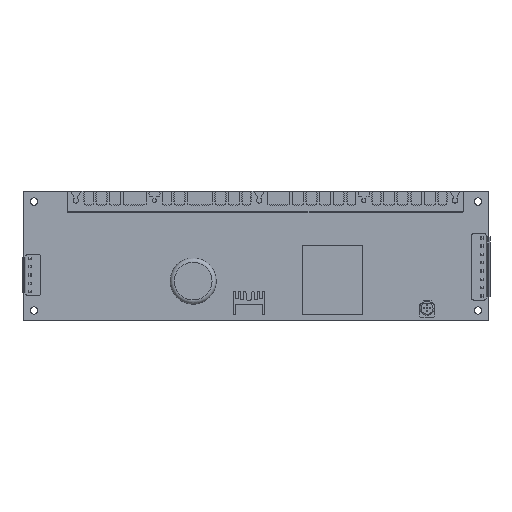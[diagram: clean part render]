
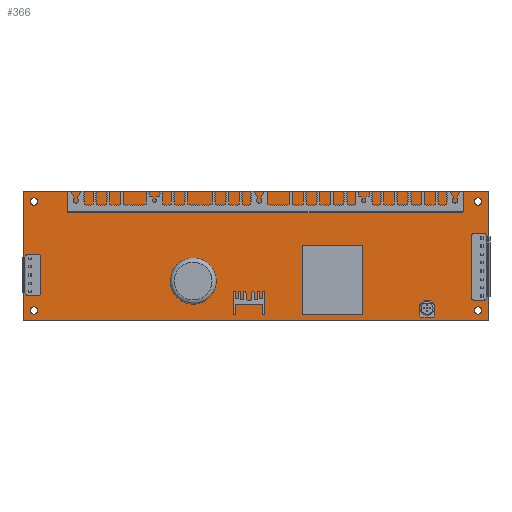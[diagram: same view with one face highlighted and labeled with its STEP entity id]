
A CAD part, top view. The second image highlights one B-rep face of the part: STEP entity #366.
In plain terms, the highlighted planar face has unit normal (0, 0, 1).
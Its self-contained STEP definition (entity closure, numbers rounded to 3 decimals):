
#112=CARTESIAN_POINT('',(197.446,-0.769,1.6));
#113=VERTEX_POINT('',#112);
#114=CARTESIAN_POINT('',(195.696,-0.769,1.6));
#115=DIRECTION('',(0.0,0.0,-1.0));
#116=DIRECTION('',(-1.0,0.0,0.0));
#117=AXIS2_PLACEMENT_3D('',#114,#115,#116);
#118=CIRCLE('',#117,1.75);
#119=EDGE_CURVE('',#113,#113,#118,.T.);
#140=CARTESIAN_POINT('',(197.446,51.231,1.6));
#141=VERTEX_POINT('',#140);
#142=CARTESIAN_POINT('',(195.696,51.231,1.6));
#143=DIRECTION('',(0.0,0.0,-1.0));
#144=DIRECTION('',(-1.0,0.0,0.0));
#145=AXIS2_PLACEMENT_3D('',#142,#143,#144);
#146=CIRCLE('',#145,1.75);
#147=EDGE_CURVE('',#141,#141,#146,.T.);
#168=CARTESIAN_POINT('',(-14.554,-0.769,1.6));
#169=VERTEX_POINT('',#168);
#170=CARTESIAN_POINT('',(-16.304,-0.769,1.6));
#171=DIRECTION('',(0.0,0.0,-1.0));
#172=DIRECTION('',(-1.0,0.0,0.0));
#173=AXIS2_PLACEMENT_3D('',#170,#171,#172);
#174=CIRCLE('',#173,1.75);
#175=EDGE_CURVE('',#169,#169,#174,.T.);
#196=CARTESIAN_POINT('',(-14.554,51.231,1.6));
#197=VERTEX_POINT('',#196);
#198=CARTESIAN_POINT('',(-16.304,51.231,1.6));
#199=DIRECTION('',(0.0,0.0,-1.0));
#200=DIRECTION('',(-1.0,0.0,0.0));
#201=AXIS2_PLACEMENT_3D('',#198,#199,#200);
#202=CIRCLE('',#201,1.75);
#203=EDGE_CURVE('',#197,#197,#202,.T.);
#224=CARTESIAN_POINT('',(200.696,56.231,1.6));
#225=VERTEX_POINT('',#224);
#226=CARTESIAN_POINT('',(200.696,-5.769,1.6));
#227=VERTEX_POINT('',#226);
#228=CARTESIAN_POINT('',(200.696,56.231,1.6));
#229=DIRECTION('',(0.0,-1.0,0.0));
#230=VECTOR('',#229,62.0);
#231=LINE('',#228,#230);
#232=EDGE_CURVE('',#225,#227,#231,.T.);
#264=CARTESIAN_POINT('',(-21.304,-5.769,1.6));
#265=VERTEX_POINT('',#264);
#266=CARTESIAN_POINT('',(200.696,-5.769,1.6));
#267=DIRECTION('',(-1.0,0.0,0.0));
#268=VECTOR('',#267,222.0);
#269=LINE('',#266,#268);
#270=EDGE_CURVE('',#227,#265,#269,.T.);
#295=CARTESIAN_POINT('',(-21.304,56.231,1.6));
#296=VERTEX_POINT('',#295);
#297=CARTESIAN_POINT('',(-21.304,-5.769,1.6));
#298=DIRECTION('',(0.0,1.0,0.0));
#299=VECTOR('',#298,62.0);
#300=LINE('',#297,#299);
#301=EDGE_CURVE('',#265,#296,#300,.T.);
#326=CARTESIAN_POINT('',(-21.304,56.231,1.6));
#327=DIRECTION('',(1.0,0.0,0.0));
#328=VECTOR('',#327,222.);
#329=LINE('',#326,#328);
#330=EDGE_CURVE('',#296,#225,#329,.T.);
#343=CARTESIAN_POINT('',(89.696,25.231,1.6));
#344=DIRECTION('',(0.0,0.0,1.0));
#345=DIRECTION('',(1.0,0.0,0.0));
#346=AXIS2_PLACEMENT_3D('',#343,#344,#345);
#347=PLANE('',#346);
#348=ORIENTED_EDGE('',*,*,#232,.F.);
#349=ORIENTED_EDGE('',*,*,#330,.F.);
#350=ORIENTED_EDGE('',*,*,#301,.F.);
#351=ORIENTED_EDGE('',*,*,#270,.F.);
#352=EDGE_LOOP('',(#348,#349,#350,#351));
#353=FACE_OUTER_BOUND('',#352,.T.);
#354=ORIENTED_EDGE('',*,*,#119,.T.);
#355=EDGE_LOOP('',(#354));
#356=FACE_BOUND('',#355,.T.);
#357=ORIENTED_EDGE('',*,*,#147,.T.);
#358=EDGE_LOOP('',(#357));
#359=FACE_BOUND('',#358,.T.);
#360=ORIENTED_EDGE('',*,*,#175,.T.);
#361=EDGE_LOOP('',(#360));
#362=FACE_BOUND('',#361,.T.);
#363=ORIENTED_EDGE('',*,*,#203,.T.);
#364=EDGE_LOOP('',(#363));
#365=FACE_BOUND('',#364,.T.);
#366=ADVANCED_FACE('',(#353,#356,#359,#362,#365),#347,.T.);
